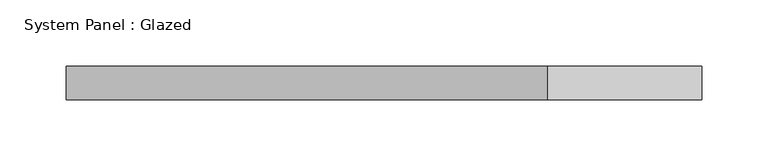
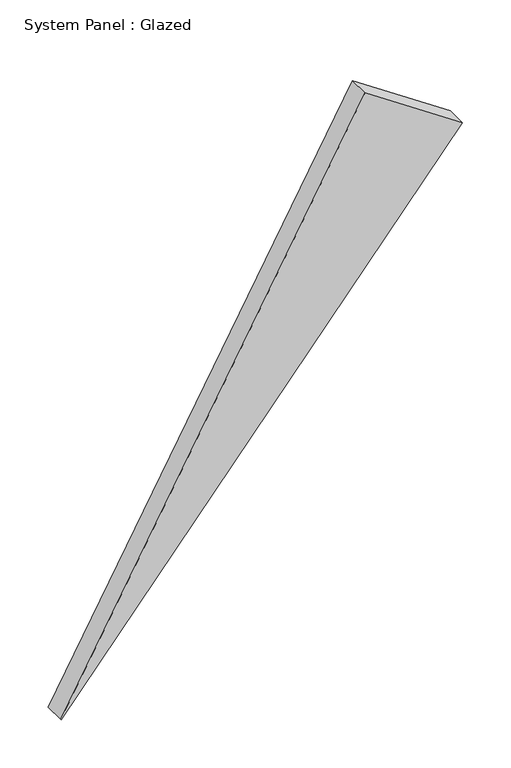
"""IFC4 building model written with IfcOpenShell, lengths in millimetres: plate geometry, System Panel : Glazed."""

from ifc_helpers import new_model, si_unit, frame, origin, place, context, project, spatial, polyline, outline, extrude, source, transform, mapped, element, save


def system_panel_glazed_51ac6327(model_context):
    return source(origin(), model_context, "Body", "SweptSolid", [
        extrude(outline(polyline([(0.4738618, -240.4140768), (0.0, -239.7124362), (585.8028907, 240.4140768), (664.6582553, 123.6540305), (0.4738618, -240.4140768)])), frame((0.0, -44.45, 0.0), z_axis=(0.0, 1.0, 0.0), x_axis=(0.0, 0.0, 1.0)), (0.0, 0.0, 1.0), 25.4),
    ])


if __name__ == "__main__":
    model = new_model("IFC4")
    model_context = context("Model", 3, world=origin())
    ifc_project = project(units=[si_unit("LENGTHUNIT", "METRE", prefix="MILLI")], contexts=[model_context])
    site = spatial("IfcSite", under=ifc_project)
    building = spatial("IfcBuilding", under=site)
    placement = place(None, origin())
    system_panel_glazed_shape = system_panel_glazed_51ac6327(model_context)
    element("IfcPlate", 1, ObjectType="System Panel : Glazed", at=placement, inside=building, context=model_context, shape_type="MappedRepresentation", body=[
        mapped(system_panel_glazed_shape, transform((0.0, 0.0, 0.0), x_axis=(1.0, 0.0, 0.0), y_axis=(0.0, 1.0, 0.0), z_axis=(0.0, 0.0, 1.0))),
    ])
    save(model, "model.ifc")
